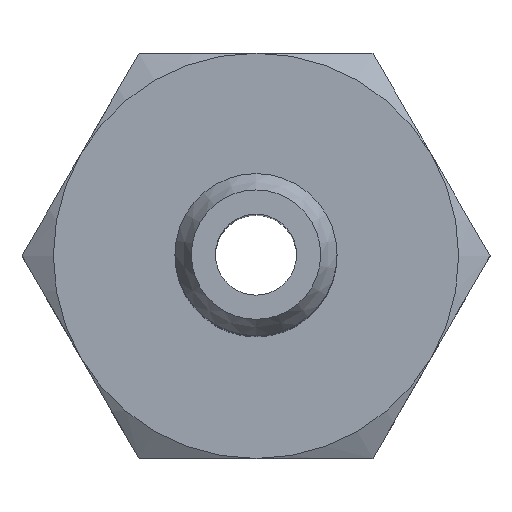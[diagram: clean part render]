
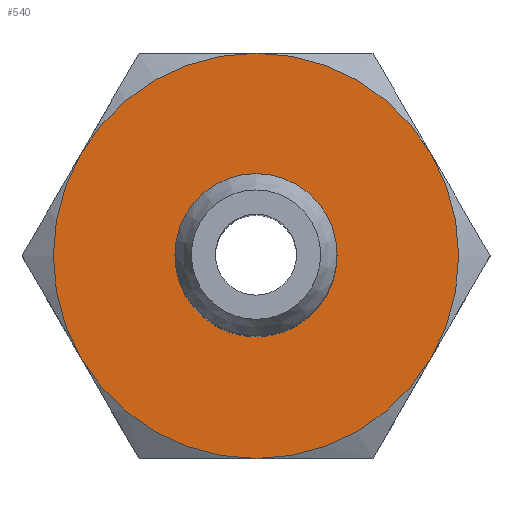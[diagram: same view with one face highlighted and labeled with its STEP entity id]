
A CAD part, top view. The second image highlights one B-rep face of the part: STEP entity #540.
In plain terms, the highlighted planar face has unit normal (0, 0, 1).
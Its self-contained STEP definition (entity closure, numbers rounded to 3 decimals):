
#540=ADVANCED_FACE('', (#550,#560), #570, .T.);
#2620=AXIS2_PLACEMENT_3D('Ax2Pl3d', #2630, #2640, #2650);
#2740=AXIS2_PLACEMENT_3D('Ax2Pl3d', #2750, #2760, #2770);
#2860=AXIS2_PLACEMENT_3D('Ax2Pl3d', #2870, #2880, #2890);
#2900=AXIS2_PLACEMENT_3D('Ax2Pl3d', #2910, #2920, #2930);
#2940=AXIS2_PLACEMENT_3D('Ax2Pl3d', #2950, #2960, #2970);
#2980=AXIS2_PLACEMENT_3D('Ax2Pl3d', #2990, #3000, #3010);
#3020=AXIS2_PLACEMENT_3D('Ax2Pl3d', #3030, #3040, #3050);
#3060=AXIS2_PLACEMENT_3D('Ax2Pl3d', #3070, #3080, #3090);
#6790=CARTESIAN_POINT('', (15.088,5.45,14.821));
#6880=CARTESIAN_POINT('', (15.088,10.45,14.821));
#2630=CARTESIAN_POINT('HicPkt', (10.758,7.95,
14.821));
#6890=CARTESIAN_POINT('', (10.758,12.95,14.821));
#2750=CARTESIAN_POINT('HicPkt', (10.758,7.95,
14.821));
#6930=CARTESIAN_POINT('', (10.758,2.95,14.821));
#2870=CARTESIAN_POINT('HicPkt', (15.758,7.95,
14.821));
#2910=CARTESIAN_POINT('HicPkt', (10.758,7.95,
14.821));
#6940=CARTESIAN_POINT('', (6.428,10.45,14.821));
#6950=CARTESIAN_POINT('', (6.428,5.45,14.821));
#2950=CARTESIAN_POINT('HicPkt', (10.758,7.95,
14.821));
#2990=CARTESIAN_POINT('HicPkt', (10.758,7.95,
14.821));
#3030=CARTESIAN_POINT('HicPkt', (10.758,7.95,
14.821));
#3070=CARTESIAN_POINT('HicPkt', (10.758,7.95,
14.821));
#6960=CARTESIAN_POINT('', (10.758,9.95,14.821));
#7350=CIRCLE('Circle', #2620, 5.);
#7360=CIRCLE('Circle', #2740, 5.);
#7370=CIRCLE('Circle', #2900, 5.);
#7380=CIRCLE('Circle', #2940, 5.);
#7390=CIRCLE('Circle', #2980, 5.);
#7400=CIRCLE('Circle', #3020, 5.);
#7410=CIRCLE('Circle', #3060, 2.);
#2640=DIRECTION('Axis', (0.,0.,-1.));
#2650=DIRECTION('RefDirection', (-1.,-0.,0.));
#2760=DIRECTION('Axis', (0.,0.,1.));
#2770=DIRECTION('RefDirection', (1.,0.,-0.));
#2880=DIRECTION('Axis', (0.,0.,1.));
#2890=DIRECTION('RefDirection', (1.,0.,-0.));
#2920=DIRECTION('Axis', (0.,0.,1.));
#2930=DIRECTION('RefDirection', (1.,0.,-0.));
#2960=DIRECTION('Axis', (0.,0.,1.));
#2970=DIRECTION('RefDirection', (1.,0.,-0.));
#3000=DIRECTION('Axis', (0.,0.,1.));
#3010=DIRECTION('RefDirection', (1.,0.,-0.));
#3040=DIRECTION('Axis', (0.,0.,1.));
#3050=DIRECTION('RefDirection', (1.,0.,-0.));
#3080=DIRECTION('Axis', (0.,0.,1.));
#3090=DIRECTION('RefDirection', (1.,0.,-0.));
#10300=EDGE_CURVE('', #10270, #10120, #7350, .T.);
#10340=EDGE_CURVE('', #10270, #10330, #7360, .T.);
#10440=EDGE_CURVE('', #10450, #10460, #7370, .T.);
#10470=EDGE_CURVE('', #10460, #10420, #7380, .T.);
#10480=EDGE_CURVE('', #10420, #10120, #7390, .T.);
#10490=EDGE_CURVE('', #10330, #10450, #7400, .T.);
#10500=EDGE_CURVE('', #10510, #10510, #7410, .T.);
#11780=EDGE_LOOP('Edge_loop', (#11790,#11800,#11810,#11820,#11830,
#11840));
#11850=EDGE_LOOP('Edge_loop', (#11860));
#560=FACE_BOUND('', #11850, .T.);
#550=FACE_OUTER_BOUND('Face_outer_bound', #11780, .T.);
#11790=ORIENTED_EDGE('', *, *, #10440, .T.);
#11800=ORIENTED_EDGE('', *, *, #10470, .T.);
#11810=ORIENTED_EDGE('', *, *, #10480, .T.);
#11820=ORIENTED_EDGE('', *, *, #10300, .F.);
#11830=ORIENTED_EDGE('', *, *, #10340, .T.);
#11840=ORIENTED_EDGE('', *, *, #10490, .T.);
#11860=ORIENTED_EDGE('', *, *, #10500, .F.);
#570=PLANE('Plane', #2860);
#10120=VERTEX_POINT('', #6790);
#10270=VERTEX_POINT('', #6880);
#10330=VERTEX_POINT('', #6890);
#10420=VERTEX_POINT('', #6930);
#10450=VERTEX_POINT('', #6940);
#10460=VERTEX_POINT('', #6950);
#10510=VERTEX_POINT('', #6960);
